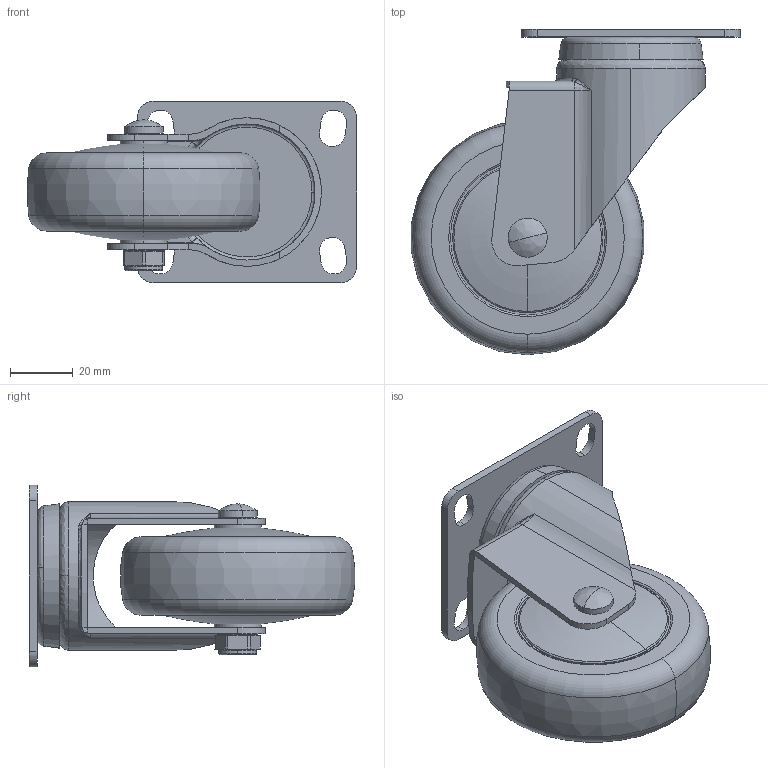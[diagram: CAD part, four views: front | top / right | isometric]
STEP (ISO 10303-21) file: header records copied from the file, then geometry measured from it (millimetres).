
FILE_DESCRIPTION (( 'STEP AP214' ), '1' );
FILE_NAME ('37213-373-67 す階勀砃.STEP', '2019-12-13T23:57:12', ( 'Owner' ), ( 'Organization' ), 'SwSTEP 2.0', 'SolidWorks 2014', '' );
FILE_SCHEMA (( 'AUTOMOTIVE_DESIGN' ));
Length unit declared in the file: millimetre
Products named in the file (9): 300-34; 373-11勀砃; 360-01 侐源 ; 3渡勀砃; 373-907; 价陬; 360-03上刚碗 （37系列使用模型）; 350-33a; 37213-373-67 す階勀砃
Assembly tree (8 placements, depth 4):
  37213-373-67 す階勀砃
    3渡勀砃
      373-11勀砃
      360-03上刚碗 （37系列使用模型）
      价陬
        300-34
        350-33a
    360-01 侐源 
    373-907
Bounding box: 105.14 x 104.02 x 58 mm (x, y, z)
Volume: 146913.5 mm3; surface area: 46809.3 mm2
Topology: 6 solids, 6 shells, 250 faces, 642 edges, 411 vertices
Faces by surface type: cylinder 91, plane 58, bspline 52, cone 25, torus 24
Entity records: 86664 total; most frequent: CARTESIAN_POINT 80582, ORIENTED_EDGE 1276, DIRECTION 1139, EDGE_CURVE 638, AXIS2_PLACEMENT_3D 469, VERTEX_POINT 411, EDGE_LOOP 279, CIRCLE 258
